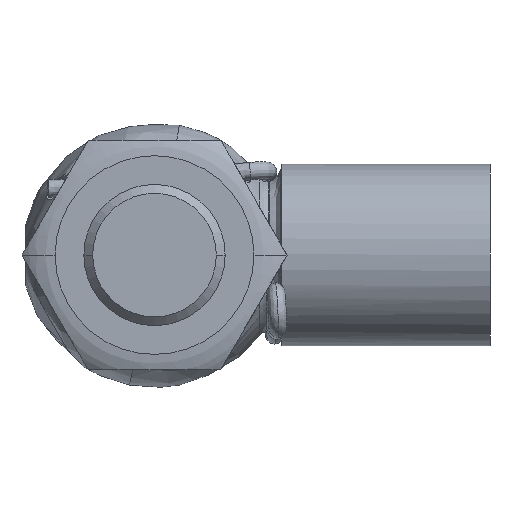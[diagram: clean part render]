
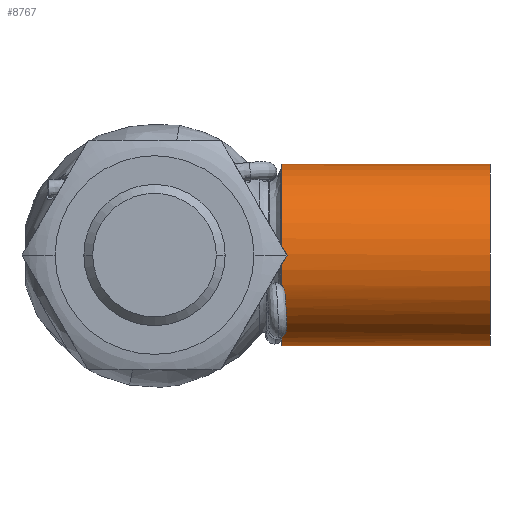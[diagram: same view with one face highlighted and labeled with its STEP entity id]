
A CAD part, front view. The second image highlights one B-rep face of the part: STEP entity #8767.
In plain terms, the highlighted cylindrical face has radius 5.15 mm (diameter 10.3 mm), a partial arc.
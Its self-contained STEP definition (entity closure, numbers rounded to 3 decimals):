
#3 = CARTESIAN_POINT ( 'NONE',  ( 7.203, -4.861, -1.7 ) ) ;
#72 = CIRCLE ( 'NONE', #4346, 5.15 ) ;
#376 = DIRECTION ( 'NONE',  ( -1., 0., 0. ) ) ;
#470 = EDGE_LOOP ( 'NONE', ( #5181, #7576, #3574, #6099, #7635, #5112, #9430, #7311, #1601 ) ) ;
#590 = CYLINDRICAL_SURFACE ( 'NONE', #1524, 5.15 ) ;
#687 = CARTESIAN_POINT ( 'NONE',  ( 7.265, -3.36, -3.903 ) ) ;
#715 = VERTEX_POINT ( 'NONE', #1987 ) ;
#792 = CARTESIAN_POINT ( 'NONE',  ( 7.34, -4.642, -2.232 ) ) ;
#860 = CARTESIAN_POINT ( 'NONE',  ( 7.367, -4.737, -2.022 ) ) ;
#937 = DIRECTION ( 'NONE',  ( -1., 0., 0. ) ) ;
#1084 = DIRECTION ( 'NONE',  ( 0., 0., -1. ) ) ;
#1192 = CARTESIAN_POINT ( 'NONE',  ( 7.244, -3.361, -3.902 ) ) ;
#1327 = EDGE_CURVE ( 'NONE', #2224, #715, #6271, .T. ) ;
#1388 = CARTESIAN_POINT ( 'NONE',  ( 7.203, -3.362, -3.901 ) ) ;
#1524 = AXIS2_PLACEMENT_3D ( 'NONE', #1755, #937, #9839 ) ;
#1540 = CARTESIAN_POINT ( 'NONE',  ( 7.203, -4.516, -2.476 ) ) ;
#1601 = ORIENTED_EDGE ( 'NONE', *, *, #6007, .T. ) ;
#1612 = CIRCLE ( 'NONE', #9509, 5.15 ) ;
#1616 = VERTEX_POINT ( 'NONE', #1671 ) ;
#1671 = CARTESIAN_POINT ( 'NONE',  ( 7.203, -3.423, -3.848 ) ) ;
#1755 = CARTESIAN_POINT ( 'NONE',  ( 16.117, 0., 0. ) ) ;
#1770 = DIRECTION ( 'NONE',  ( 1., 0., 0. ) ) ;
#1810 = B_SPLINE_CURVE_WITH_KNOTS ( 'NONE', 3,
 ( #1540, #8027, #4026, #792, #6476, #860, #3992, #4784, #4883, #3 ),
 .UNSPECIFIED., .F., .F.,
 ( 4, 2, 2, 2, 4 ),
 ( 0., 0., 0., 0.001, 0.001 ),
 .UNSPECIFIED. ) ;
#1987 = CARTESIAN_POINT ( 'NONE',  ( 7.203, 0., -5.15 ) ) ;
#2012 = VECTOR ( 'NONE', #5531, 1000. ) ;
#2224 = VERTEX_POINT ( 'NONE', #9827 ) ;
#3131 = EDGE_CURVE ( 'NONE', #1616, #8649, #7556, .T. ) ;
#3328 = CARTESIAN_POINT ( 'NONE',  ( 7.246, -3.382, -3.884 ) ) ;
#3369 = DIRECTION ( 'NONE',  ( 0., 0., -1. ) ) ;
#3574 = ORIENTED_EDGE ( 'NONE', *, *, #4360, .T. ) ;
#3696 = DIRECTION ( 'NONE',  ( 0., 0., -1. ) ) ;
#3965 = VERTEX_POINT ( 'NONE', #6907 ) ;
#3992 = CARTESIAN_POINT ( 'NONE',  ( 7.357, -4.768, -1.949 ) ) ;
#4026 = CARTESIAN_POINT ( 'NONE',  ( 7.284, -4.578, -2.36 ) ) ;
#4151 = FACE_OUTER_BOUND ( 'NONE', #470, .T. ) ;
#4334 = DIRECTION ( 'NONE',  ( 1., 0., 0. ) ) ;
#4340 = CARTESIAN_POINT ( 'NONE',  ( 7.203, 0., 0. ) ) ;
#4346 = AXIS2_PLACEMENT_3D ( 'NONE', #8538, #10141, #3696 ) ;
#4360 = EDGE_CURVE ( 'NONE', #4622, #3965, #6969, .T. ) ;
#4622 = VERTEX_POINT ( 'NONE', #8177 ) ;
#4742 = AXIS2_PLACEMENT_3D ( 'NONE', #4340, #5011, #9999 ) ;
#4784 = CARTESIAN_POINT ( 'NONE',  ( 7.304, -4.821, -1.814 ) ) ;
#4883 = CARTESIAN_POINT ( 'NONE',  ( 7.26, -4.844, -1.751 ) ) ;
#5010 = CARTESIAN_POINT ( 'NONE',  ( 7.226, -3.404, -3.865 ) ) ;
#5011 = DIRECTION ( 'NONE',  ( 1., 0., 0. ) ) ;
#5098 = EDGE_CURVE ( 'NONE', #7209, #8649, #10106, .T. ) ;
#5112 = ORIENTED_EDGE ( 'NONE', *, *, #7883, .T. ) ;
#5113 = CARTESIAN_POINT ( 'NONE',  ( 7.203, 0., 0. ) ) ;
#5181 = ORIENTED_EDGE ( 'NONE', *, *, #1327, .F. ) ;
#5216 = CARTESIAN_POINT ( 'NONE',  ( 7.223, -3.361, -3.902 ) ) ;
#5531 = DIRECTION ( 'NONE',  ( -1., 0., 0. ) ) ;
#5567 = CARTESIAN_POINT ( 'NONE',  ( 16.117, 0., 5.15 ) ) ;
#5661 = EDGE_CURVE ( 'NONE', #3965, #7238, #9488, .T. ) ;
#5859 = CARTESIAN_POINT ( 'NONE',  ( 7.203, 0., 0. ) ) ;
#6007 = EDGE_CURVE ( 'NONE', #7209, #715, #1612, .T. ) ;
#6099 = ORIENTED_EDGE ( 'NONE', *, *, #5661, .T. ) ;
#6215 = CARTESIAN_POINT ( 'NONE',  ( 7.203, -4.861, -1.7 ) ) ;
#6271 = LINE ( 'NONE', #9305, #6785 ) ;
#6476 = CARTESIAN_POINT ( 'NONE',  ( 7.359, -4.675, -2.163 ) ) ;
#6604 = EDGE_CURVE ( 'NONE', #9298, #7238, #1810, .T. ) ;
#6625 = CARTESIAN_POINT ( 'NONE',  ( 7.265, -3.36, -3.903 ) ) ;
#6785 = VECTOR ( 'NONE', #376, 1000. ) ;
#6907 = CARTESIAN_POINT ( 'NONE',  ( 7.203, 0., 5.15 ) ) ;
#6969 = LINE ( 'NONE', #5567, #2012 ) ;
#7131 = AXIS2_PLACEMENT_3D ( 'NONE', #5113, #4334, #1084 ) ;
#7209 = VERTEX_POINT ( 'NONE', #1388 ) ;
#7238 = VERTEX_POINT ( 'NONE', #6215 ) ;
#7311 = ORIENTED_EDGE ( 'NONE', *, *, #5098, .F. ) ;
#7556 = B_SPLINE_CURVE_WITH_KNOTS ( 'NONE', 3,
 ( #9892, #5010, #3328, #6625 ),
 .UNSPECIFIED., .F., .F.,
 ( 4, 4 ),
 ( 0., 0. ),
 .UNSPECIFIED. ) ;
#7576 = ORIENTED_EDGE ( 'NONE', *, *, #8243, .T. ) ;
#7635 = ORIENTED_EDGE ( 'NONE', *, *, #6604, .F. ) ;
#7883 = EDGE_CURVE ( 'NONE', #9298, #1616, #8342, .T. ) ;
#8027 = CARTESIAN_POINT ( 'NONE',  ( 7.246, -4.547, -2.42 ) ) ;
#8177 = CARTESIAN_POINT ( 'NONE',  ( 19.003, 0., 5.15 ) ) ;
#8243 = EDGE_CURVE ( 'NONE', #2224, #4622, #72, .T. ) ;
#8342 = CIRCLE ( 'NONE', #4742, 5.15 ) ;
#8403 = CARTESIAN_POINT ( 'NONE',  ( 7.203, -4.516, -2.476 ) ) ;
#8538 = CARTESIAN_POINT ( 'NONE',  ( 19.003, 0., 0. ) ) ;
#8649 = VERTEX_POINT ( 'NONE', #687 ) ;
#8767 = ADVANCED_FACE ( 'NONE', ( #4151 ), #590, .T. ) ;
#9298 = VERTEX_POINT ( 'NONE', #8403 ) ;
#9305 = CARTESIAN_POINT ( 'NONE',  ( 16.117, 0., -5.15 ) ) ;
#9313 = CARTESIAN_POINT ( 'NONE',  ( 7.265, -3.36, -3.903 ) ) ;
#9430 = ORIENTED_EDGE ( 'NONE', *, *, #3131, .T. ) ;
#9488 = CIRCLE ( 'NONE', #7131, 5.15 ) ;
#9509 = AXIS2_PLACEMENT_3D ( 'NONE', #5859, #1770, #3369 ) ;
#9827 = CARTESIAN_POINT ( 'NONE',  ( 19.003, 0., -5.15 ) ) ;
#9839 = DIRECTION ( 'NONE',  ( 0., 0., 1. ) ) ;
#9892 = CARTESIAN_POINT ( 'NONE',  ( 7.203, -3.423, -3.848 ) ) ;
#9999 = DIRECTION ( 'NONE',  ( 0., 0., -1. ) ) ;
#10096 = CARTESIAN_POINT ( 'NONE',  ( 7.203, -3.362, -3.901 ) ) ;
#10106 =( BOUNDED_CURVE ( )  B_SPLINE_CURVE ( 3, ( #10096, #5216, #1192, #9313 ),
 .UNSPECIFIED., .F., .F. ) 
 B_SPLINE_CURVE_WITH_KNOTS ( ( 4, 4 ),
 ( 4.071, 4.072 ),
 .UNSPECIFIED. ) 
 CURVE ( )  GEOMETRIC_REPRESENTATION_ITEM ( )  RATIONAL_B_SPLINE_CURVE ( ( 1., 1., 1., 1. ) ) 
 REPRESENTATION_ITEM ( '' )  );
#10141 = DIRECTION ( 'NONE',  ( -1., 0., 0. ) ) ;
